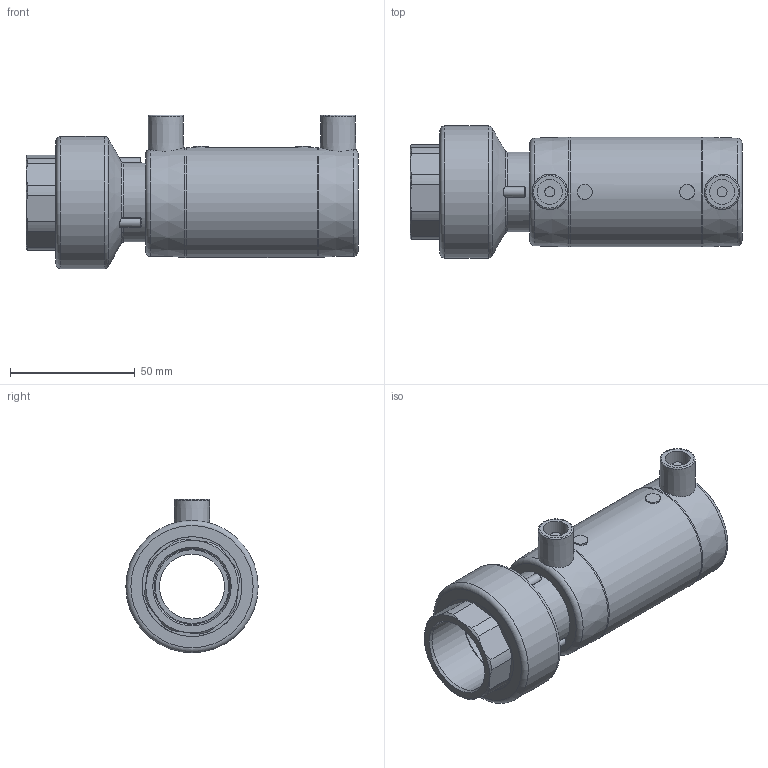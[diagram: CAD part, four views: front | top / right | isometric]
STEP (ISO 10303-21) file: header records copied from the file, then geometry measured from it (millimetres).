
FILE_DESCRIPTION(/* description */ ('Unknown'),/* implementation_level */ '2;1');
FILE_NAME(/* name */ 'MTFP032C',/* time_stamp */ '2021-03-02T09:16:22+01:00',/* author */ ('Unknown'),/* organization */ ('Unknown'),/* preprocessor_version */ 'ST-DEVELOPER v16.7',/* originating_system */ 'Solid Edge',/* authorisation */ 'Unknown');
FILE_SCHEMA (('AUTOMOTIVE_DESIGN {1 0 10303 214 3 1 1}'));
Length unit declared in the file: millimetre
Products named in the file (5): MTFP032C; MP032C; RTOFP032C; Parte PE 032; IOF032C
Assembly tree (4 placements, depth 3):
  MTFP032C
    MP032C
    RTOFP032C
      Parte PE 032
      IOF032C
Bounding box: 133 x 53 x 61.5 mm (x, y, z)
Volume: 118628.5 mm3; surface area: 55314.9 mm2
Topology: 3 solids, 3 shells, 529 faces, 1277 edges, 774 vertices
Faces by surface type: bspline 231, plane 119, cylinder 95, cone 43, torus 41
Full cylindrical faces by diameter (mm): 4 x2, 6 x2, 10 x2, 26 x1, 29.5 x4, 30.291 x1, 32 x2, 33.5 x2, 39.8 x2, 40 x2, 44 x5, 53 x1
Entity records: 19341 total; most frequent: CARTESIAN_POINT 6867, ORIENTED_EDGE 2426, DIRECTION 2004, EDGE_CURVE 1213, AXIS2_PLACEMENT_3D 924, VERTEX_POINT 755, EDGE_LOOP 600, FACE_BOUND 600
